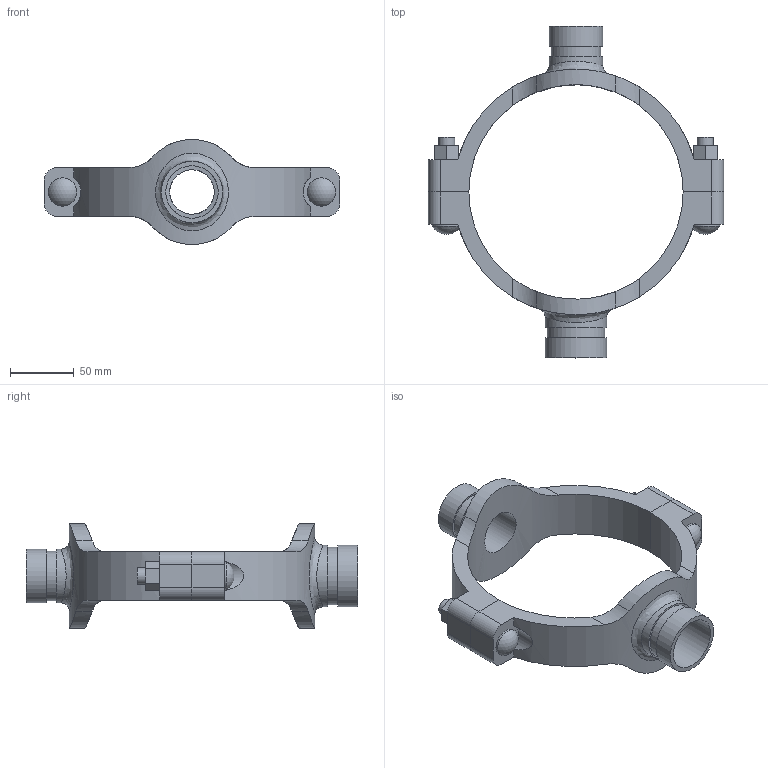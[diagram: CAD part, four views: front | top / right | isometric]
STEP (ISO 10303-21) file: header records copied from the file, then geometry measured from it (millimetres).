
FILE_DESCRIPTION(/* description */ ('VIC MECH-T BRANCH OUTLET CROSS STYLE 920N (GRVD)','CAx-IF Rec.Pracs.---Representation and Presentation of Product Manufacturing Information (PMI)---4.0---2014-10-13'),/* implementation_level */ '2;1');
FILE_NAME(/* name */ 'C:\Users\Vjadhav\AppData\Roaming\Autodesk\ApplicationPlugins\Back Up\Victaulic_IPS_Mechanical-Cross Outlet_Style 920N (OGS)\Victaulic_IPS_Mechanical-Cross Outlet_06.0x01.25x01.5 (150x32x40).stp',/* time_stamp */ '2020-08-06T19:44:38+05:00',/* author */ ('Vjadhav'),/* organization */ ('Victaulic'),/* preprocessor_version */ 'ST-DEVELOPER v17.2',/* originating_system */ 'Autodesk Inventor 2019',/* authorisation */ '');
FILE_SCHEMA (('AP242_MANAGED_MODEL_BASED_3D_ENGINEERING_MIM_LF { 1 0 10303 442 1 1 4 }'));
Length unit declared in the file: inch
Products named in the file (3): 920NG-06.0x01.25x01.5; 920NG-06.0x01.25; 920NG-06.0x01.5
Assembly tree (2 placements, depth 2):
  920NG-06.0x01.25x01.5
    920NG-06.0x01.25
    920NG-06.0x01.5
Bounding box: 231.9 x 260.6 x 82.42 mm (x, y, z)
Volume: 400120.4 mm3; surface area: 108385.5 mm2
Topology: 2 solids, 2 shells, 108 faces, 274 edges, 186 vertices
Faces by surface type: plane 54, cylinder 50, sphere 2, bspline 2
Full cylindrical faces by diameter (mm): 12.7 x4, 22.225 x2, 34.925 x1, 38.989 x1, 41.275 x1, 42.164 x2, 45.085 x1, 48.26 x2
Entity records: 4334 total; most frequent: CARTESIAN_POINT 1453, DIRECTION 552, ORIENTED_EDGE 548, EDGE_CURVE 274, AXIS2_PLACEMENT_3D 201, VERTEX_POINT 186, LINE 150, VECTOR 150
